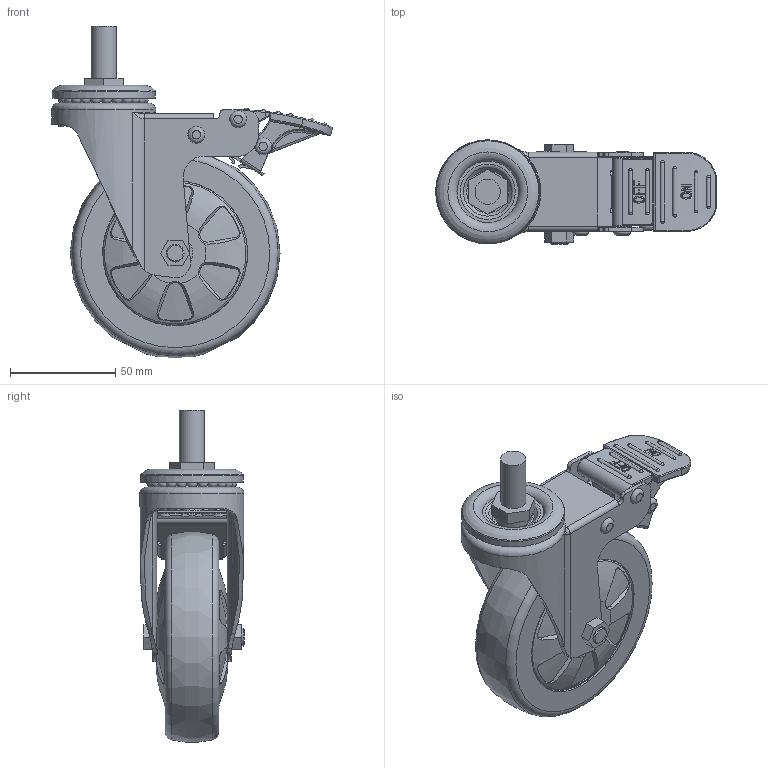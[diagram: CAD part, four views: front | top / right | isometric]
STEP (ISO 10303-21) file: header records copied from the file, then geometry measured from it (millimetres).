
FILE_DESCRIPTION(/* description */ (''),/* implementation_level */ '2;1');
FILE_NAME(/* name */ '20C33_4_F.stp',/* time_stamp */ '2022-10-06T15:27:49+08:00',/* author */ (''),/* organization */ (''),/* preprocessor_version */ 'ST-DEVELOPER v14',/* originating_system */ 'SIEMENS PLM Software NX 8.0',/* authorisation */ '');
FILE_SCHEMA (('AUTOMOTIVE_DESIGN { 1 0 10303 214 3 1 1 1 }'));
Products named in the file (1): 20C33_4_F
Bounding box: 133.46 x 49.55 x 157.87 mm (x, y, z)
Volume: 224725 mm3; surface area: 95405.6 mm2
Topology: 1 solids, 5 shells, 1153 faces, 3213 edges, 2070 vertices
Faces by surface type: plane 497, cylinder 251, bspline 187, torus 102, cone 55, sphere 55, extrusion 6
Full cylindrical faces by diameter (mm): 4.2 x3, 5.2 x5, 7.2 x2, 8.466 x1, 8.5 x1, 10 x3, 12 x1, 12.2 x1, 15 x1, 16.667 x3, 18 x1, 23.333 x2, 24.05 x1, 25 x1, 25.5 x2, 28.56 x1, 45 x1, 45.5 x1, 49 x1, 49.5 x1
Entity records: 47999 total; most frequent: CARTESIAN_POINT 22146, ORIENTED_EDGE 5832, DIRECTION 4526, EDGE_CURVE 2916, VERTEX_POINT 1930, AXIS2_PLACEMENT_3D 1702, EDGE_LOOP 1356, ADVANCED_FACE 1150
